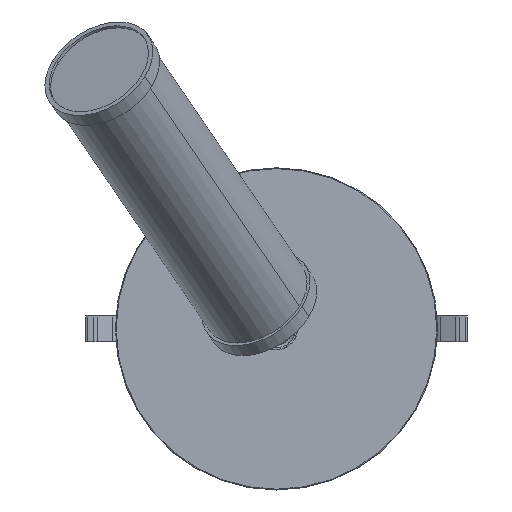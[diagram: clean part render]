
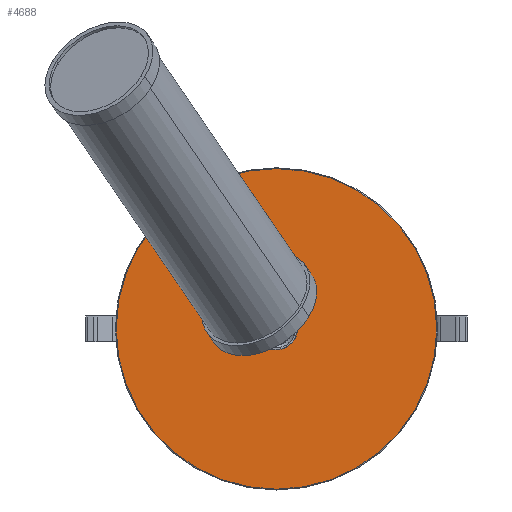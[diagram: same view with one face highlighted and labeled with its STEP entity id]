
A CAD part, front view. The second image highlights one B-rep face of the part: STEP entity #4688.
In plain terms, the highlighted planar face has unit normal (0, -1, 0).
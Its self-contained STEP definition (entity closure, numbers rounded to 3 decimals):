
#44 = EDGE_CURVE ( 'NONE', #3469, #2653, #3903, .T. ) ;
#152 = CIRCLE ( 'NONE', #4110, 5. ) ;
#344 = EDGE_LOOP ( 'NONE', ( #567, #3313 ) ) ;
#491 = CIRCLE ( 'NONE', #946, 49.75 ) ;
#493 = EDGE_LOOP ( 'NONE', ( #3880, #5066 ) ) ;
#567 = ORIENTED_EDGE ( 'NONE', *, *, #2044, .T. ) ;
#757 = VERTEX_POINT ( 'NONE', #3462 ) ;
#946 = AXIS2_PLACEMENT_3D ( 'NONE', #2882, #2456, #4597 ) ;
#1161 = CARTESIAN_POINT ( 'NONE',  ( 0., 0., -49.75 ) ) ;
#1195 = CARTESIAN_POINT ( 'NONE',  ( 0., 0., 0. ) ) ;
#1297 = CARTESIAN_POINT ( 'NONE',  ( 0., 0., 5. ) ) ;
#1333 = DIRECTION ( 'NONE',  ( 0., 0., 1. ) ) ;
#1585 = DIRECTION ( 'NONE',  ( 0., 0., 1. ) ) ;
#1596 = AXIS2_PLACEMENT_3D ( 'NONE', #5060, #4629, #3440 ) ;
#1642 = DIRECTION ( 'NONE',  ( 0., 1., 0. ) ) ;
#1692 = CIRCLE ( 'NONE', #3133, 5. ) ;
#1747 = AXIS2_PLACEMENT_3D ( 'NONE', #1195, #2568, #1585 ) ;
#2044 = EDGE_CURVE ( 'NONE', #2653, #3469, #491, .T. ) ;
#2456 = DIRECTION ( 'NONE',  ( 0., -1., 0. ) ) ;
#2568 = DIRECTION ( 'NONE',  ( 0., -1., 0. ) ) ;
#2602 = FACE_OUTER_BOUND ( 'NONE', #344, .T. ) ;
#2653 = VERTEX_POINT ( 'NONE', #4326 ) ;
#2882 = CARTESIAN_POINT ( 'NONE',  ( 0., 0., 0. ) ) ;
#3029 = FACE_BOUND ( 'NONE', #493, .T. ) ;
#3133 = AXIS2_PLACEMENT_3D ( 'NONE', #3884, #4418, #1333 ) ;
#3313 = ORIENTED_EDGE ( 'NONE', *, *, #44, .T. ) ;
#3440 = DIRECTION ( 'NONE',  ( 0., 0., 1. ) ) ;
#3462 = CARTESIAN_POINT ( 'NONE',  ( 0., 0., -5. ) ) ;
#3469 = VERTEX_POINT ( 'NONE', #1161 ) ;
#3811 = PLANE ( 'NONE',  #1596 ) ;
#3880 = ORIENTED_EDGE ( 'NONE', *, *, #5211, .T. ) ;
#3884 = CARTESIAN_POINT ( 'NONE',  ( 0., 0., 0. ) ) ;
#3903 = CIRCLE ( 'NONE', #1747, 49.75 ) ;
#4110 = AXIS2_PLACEMENT_3D ( 'NONE', #4147, #1642, #5030 ) ;
#4147 = CARTESIAN_POINT ( 'NONE',  ( 0., 0., 0. ) ) ;
#4209 = EDGE_CURVE ( 'NONE', #5537, #757, #152, .T. ) ;
#4326 = CARTESIAN_POINT ( 'NONE',  ( 0., 0., 49.75 ) ) ;
#4418 = DIRECTION ( 'NONE',  ( 0., 1., 0. ) ) ;
#4597 = DIRECTION ( 'NONE',  ( 0., 0., 1. ) ) ;
#4629 = DIRECTION ( 'NONE',  ( 0., 1., 0. ) ) ;
#4688 = ADVANCED_FACE ( 'NONE', ( #2602, #3029 ), #3811, .F. ) ;
#5030 = DIRECTION ( 'NONE',  ( 0., 0., 1. ) ) ;
#5060 = CARTESIAN_POINT ( 'NONE',  ( 0., 0., 0. ) ) ;
#5066 = ORIENTED_EDGE ( 'NONE', *, *, #4209, .T. ) ;
#5211 = EDGE_CURVE ( 'NONE', #757, #5537, #1692, .T. ) ;
#5537 = VERTEX_POINT ( 'NONE', #1297 ) ;
